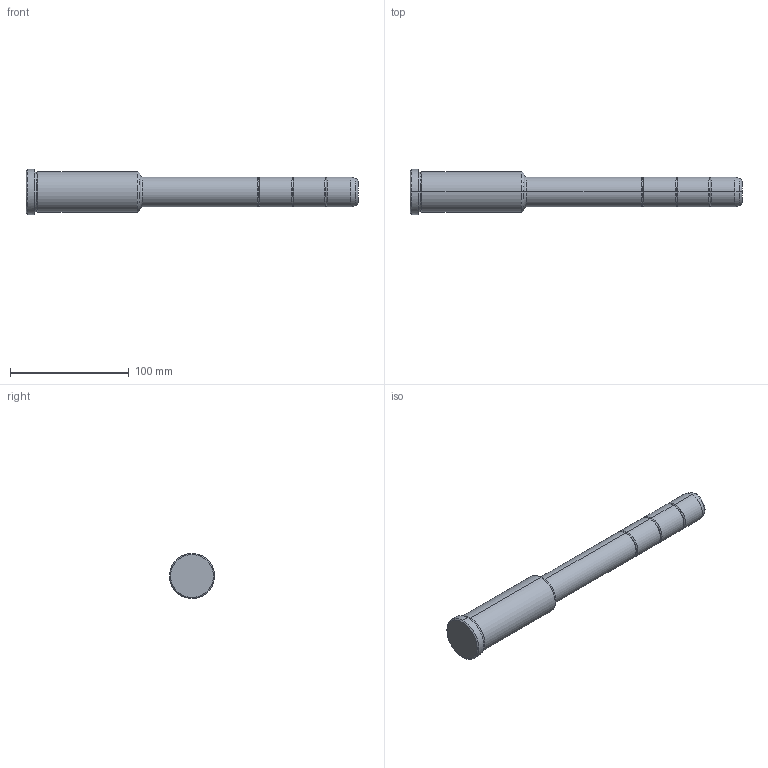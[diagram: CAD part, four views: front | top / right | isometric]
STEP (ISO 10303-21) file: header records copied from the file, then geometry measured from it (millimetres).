
FILE_DESCRIPTION(('CATIA V5 STEP Exchange'),'2;1');
FILE_NAME('C:\Users\Utente\Desktop\IO LAVORO\3D X SITO CF\X SITO\PLASTICA\351\351-25X96X280.stp','2021-09-07T11:56:53+00:00',('none'),('none'),'CATIA Version 5 Release 20 GA (IN-10)','CATIA V5 STEP AP203','none');
FILE_SCHEMA(('CONFIG_CONTROL_DESIGN'));
Length unit declared in the file: millimetre
Products named in the file (1): 351-25X96X280
Bounding box: 280 x 38 x 38 mm (x, y, z)
Volume: 178184.3 mm3; surface area: 26802.9 mm2
Topology: 1 solids, 1 shells, 42 faces, 118 edges, 80 vertices
Faces by surface type: torus 20, cylinder 12, cone 6, plane 4
Entity records: 1472 total; most frequent: CARTESIAN_POINT 353, ORIENTED_EDGE 236, DIRECTION 194, AXIS2_PLACEMENT_3D 135, EDGE_CURVE 118, CIRCLE 92, VERTEX_POINT 80, EDGE_LOOP 44
